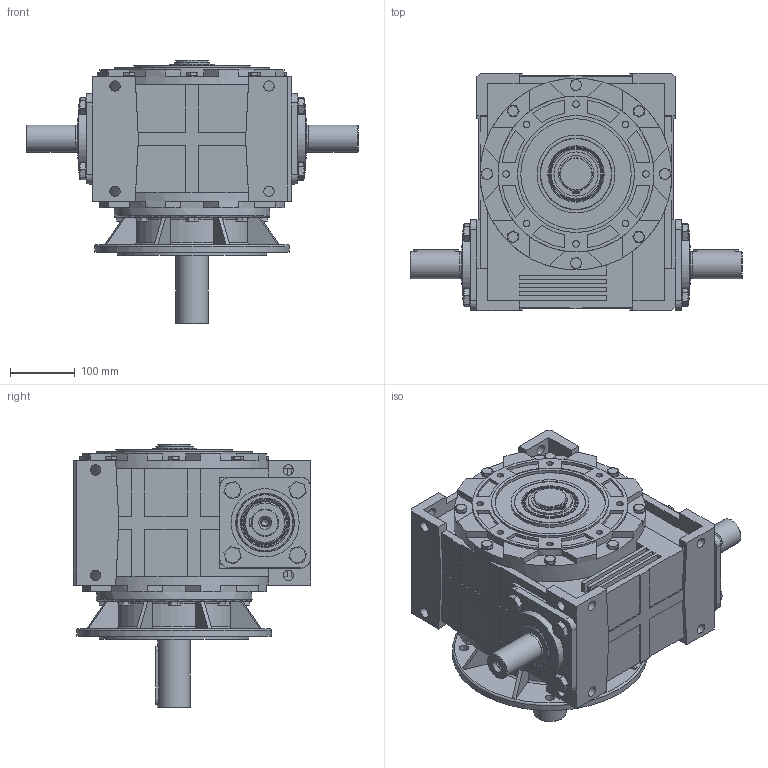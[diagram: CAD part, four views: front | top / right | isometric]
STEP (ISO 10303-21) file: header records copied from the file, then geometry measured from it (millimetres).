
FILE_DESCRIPTION (( 'STEP AP203' ), '1' );
FILE_NAME ('R-140_WBS2_K300_1_WJ_1_3D.STEP', '2018-11-13T11:34:09', ( 'Biuro' ), ( 'Microsoft' ), 'SwSTEP 2.0', 'SolidWorks 2013', '' );
FILE_SCHEMA (( 'CONFIG_CONTROL_DESIGN' ));
Length unit declared in the file: millimetre
Products named in the file (1): R-140_WBS2_K300_1_WJ_1_3D
Bounding box: 511 x 365 x 406 mm (x, y, z)
Volume: 22658912.5 mm3; surface area: 1065080.6 mm2
Topology: 1 solids, 37 shells, 1385 faces, 3333 edges, 2093 vertices
Faces by surface type: plane 798, cylinder 304, cone 206, torus 75, bspline 2
Full cylindrical faces by diameter (mm): 2.5 x2, 10 x24, 10.2 x2, 10.5 x8, 11 x8, 13 x2, 14 x5, 16 x36, 17 x9, 24 x8, 37 x1, 41.2 x1, 41.4 x1, 42 x2, 47 x1, 49.4 x1, 49.5 x1, 49.6 x1, 50 x5, 50.2 x1, 53 x1, 58 x1, 60 x1, 64.95 x2, 65 x3, 68 x1, 70.861 x2, 86 x2, 90 x4, 105 x2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
Entity records: 40007 total; most frequent: CARTESIAN_POINT 9256, DIRECTION 6442, ORIENTED_EDGE 5902, EDGE_CURVE 2951, AXIS2_PLACEMENT_3D 2443, VERTEX_POINT 1969, EDGE_LOOP 1808, FACE_OUTER_BOUND 1589
